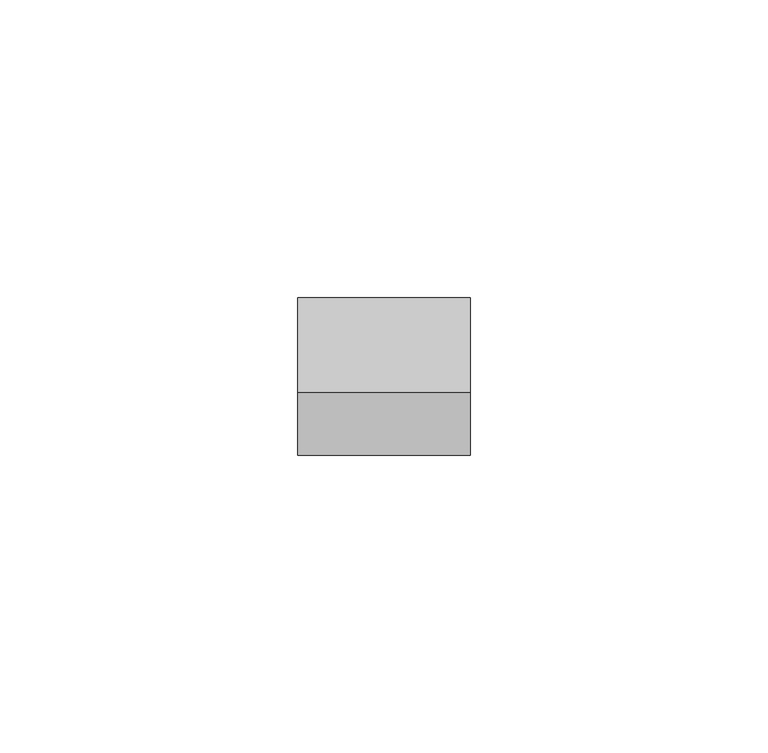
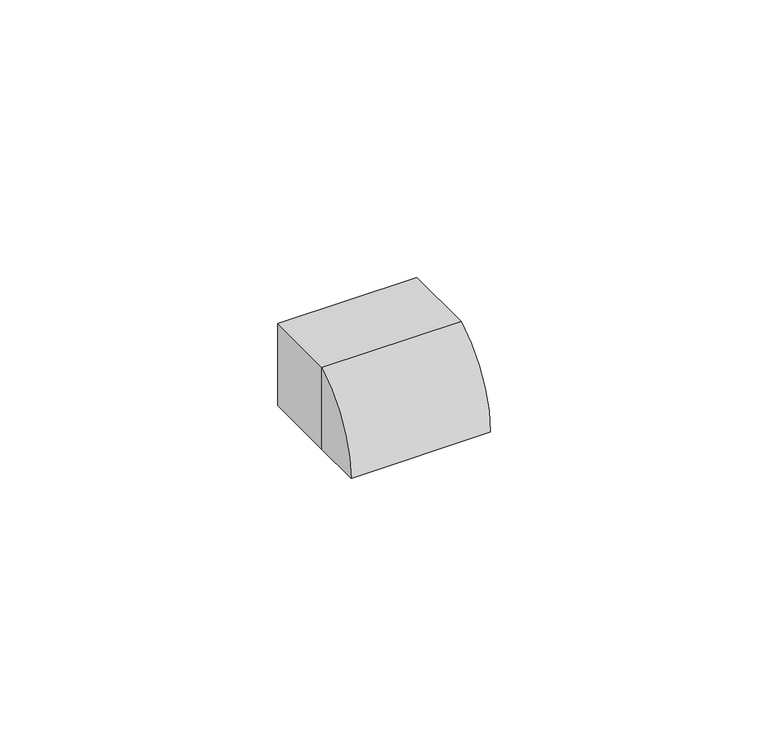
"""IFC4 building model written with IfcOpenShell, lengths in millimetres: proxy geometry, Заглушка_кабельной_трассы КМЗ : Заглушка кабельной трассы КМЗ 25х16."""

from ifc_helpers import new_model, si_unit, frame, origin, place, context, project, spatial, polyline, circle_curve, outline, extrude, source, transform, mapped, element, save
from ifc_brep_helpers import plane_surface, cylinder_surface, revolved_surface, advanced_brep


def generic_models_30738d87(model_context):
    return source(origin(), model_context, "Body", "SolidModel", [
        advanced_brep(
        [(-23.0, -16.0, 0.0), (-23.0, -16.0, 18.0), (-23.0, -26.4694533, 0.0), (-52.0, -16.0, 0.0), (-52.0, -26.4694533, 0.0), (-52.0, -16.0, 18.0), (-25.0, -16.0, 0.0), (-25.0, -16.0, 16.0), (-50.0, -16.0, 16.0), (-50.0, -16.0, 0.0), (-50.0, -24.9302135, 0.0), (-25.0, -24.9302135, 0.0)],
        [
            (0, 1),
            (1, 2, circle_curve(frame((-23.0, -5.1340485, -0.3647388), z_axis=(1.0, 0.0, 0.0), x_axis=(0.0, 1.0, 0.0)), 21.3385223)),
            (2, 0),
            (3, 4),
            (4, 5, circle_curve(frame((-52.0, -5.1340485, -0.3647388), z_axis=(-1.0, 0.0, 0.0), x_axis=(0.0, 1.0, 0.0)), 21.3385223)),
            (5, 3),
            (0, 6),
            (6, 7),
            (7, 8),
            (8, 9),
            (9, 3),
            (5, 1),
            (4, 2),
            (9, 10),
            (10, 11),
            (11, 6),
            (11, 7, circle_curve(frame((-25.0, -4.8124322, -0.7363579), z_axis=(-1.0, 0.0, 0.0), x_axis=(0.0, 1.0, 0.0)), 20.131253)),
            (8, 10, circle_curve(frame((-50.0, -4.8124322, -0.7363579), z_axis=(1.0, 0.0, 0.0), x_axis=(0.0, 1.0, 0.0)), 20.131253)),
        ],
        [
            plane_surface(frame((-23.0, -16.0, 18.0), z_axis=(1.0, 0.0, 0.0), x_axis=(0.0, 0.0, 1.0))),
            plane_surface(frame((-52.0, -16.0, 18.0), z_axis=(-1.0, 0.0, 0.0), x_axis=(0.0, 0.0, -1.0))),
            plane_surface(frame((-23.0, -16.0, 0.0), z_axis=(0.0, 1.0, 0.0), x_axis=(-1.0, 0.0, 0.0))),
            cylinder_surface(frame((-52.0, -5.1340485, -0.3647388), z_axis=(1.0, 0.0, 0.0), x_axis=(0.0, 1.0, 0.0)), 21.3385223),
            plane_surface(frame((-23.0, -26.4694533, 0.0), z_axis=(0.0, 0.0, -1.0), x_axis=(-1.0, 0.0, 0.0))),
            plane_surface(frame((-25.0, -16.0, 16.0), z_axis=(-1.0, 0.0, 0.0), x_axis=(0.0, 0.0, 1.0))),
            plane_surface(frame((-50.0, -16.0, 16.0), z_axis=(1.0, 0.0, 0.0), x_axis=(0.0, 0.0, -1.0))),
            revolved_surface(polyline([(-25.0, 15.318820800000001, -0.7363579), (-50.0, 15.318820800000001, -0.7363579)]), (-50.0, -4.8124322, -0.7363579), (1.0, 0.0, 0.0)),
        ],
        [
            (0, [[1, 2, 3]]),
            (1, [[4, 5, 6]]),
            (2, [[-1, 7, 8, 9, 10, 11, -6, 12]]),
            (3, [[-2, -12, -5, 13]]),
            (4, [[-3, -13, -4, -11, 14, 15, 16, -7]]),
            (5, [[17, -8, -16]]),
            (6, [[18, -14, -10]]),
            (7, [[-17, -15, -18, -9]]),
        ],
    ),
        extrude(outline(polyline([(18.0, -23.0), (18.0, -52.0), (0.0, -52.0), (0.0, -50.0), (16.0, -50.0), (16.0, -25.0), (0.0, -25.0), (0.0, -23.0), (18.0, -23.0)])), frame((0.0, -16.0, 0.0), z_axis=(0.0, 1.0, 0.0), x_axis=(0.0, 0.0, 1.0)), (0.0, 0.0, 1.0), 16.0),
    ])


if __name__ == "__main__":
    model = new_model("IFC4")
    model_context = context("Model", 3, world=origin())
    ifc_project = project(units=[si_unit("LENGTHUNIT", "METRE", prefix="MILLI")], contexts=[model_context])
    site = spatial("IfcSite", under=ifc_project)
    building = spatial("IfcBuilding", under=site)
    placement = place(None, origin())
    generic_models_shape = generic_models_30738d87(model_context)
    element("IfcBuildingElementProxy", 1, Name="Заглушка_кабельной_трассы КМЗ : Заглушка кабельной трассы КМЗ 25х16", ObjectType="Заглушка_кабельной_трассы КМЗ : Заглушка кабельной трассы КМЗ 25х16", at=placement, inside=building, context=model_context, shape_type="MappedRepresentation", body=[
        mapped(generic_models_shape, transform((0.0, 0.0, 0.0), x_axis=(1.0, 0.0, 0.0), y_axis=(0.0, 1.0, 0.0), z_axis=(0.0, 0.0, 1.0))),
    ])
    save(model, "model.ifc")
